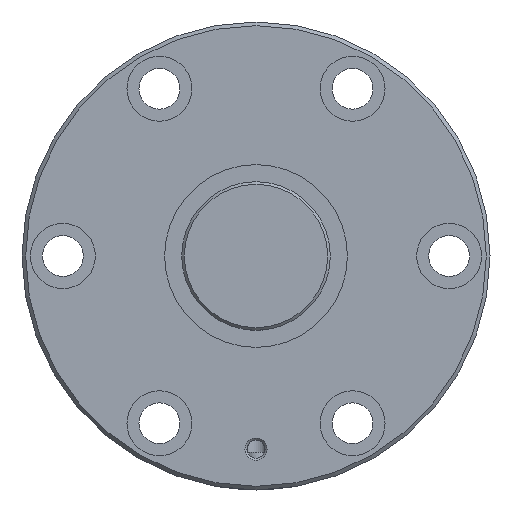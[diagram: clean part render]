
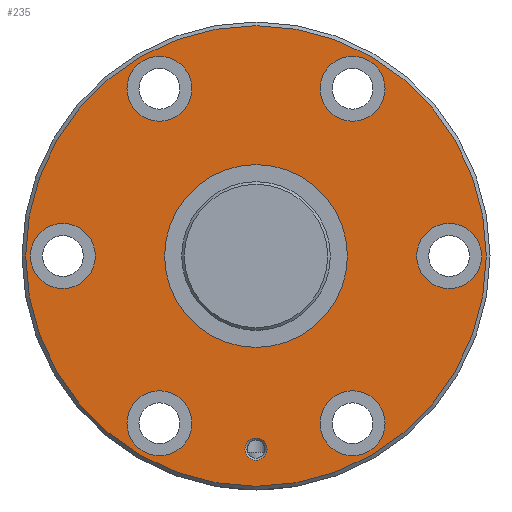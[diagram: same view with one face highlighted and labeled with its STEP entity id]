
A CAD part, left-side view. The second image highlights one B-rep face of the part: STEP entity #235.
In plain terms, the highlighted planar face has unit normal (-1, 0, 0).
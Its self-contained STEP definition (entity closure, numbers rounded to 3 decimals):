
#235 = ADVANCED_FACE( '', ( #458, #459, #460, #461, #462, #463, #464, #465, #466 ), #467, .T. );
#458 = FACE_BOUND( '', #755, .T. );
#459 = FACE_BOUND( '', #756, .T. );
#460 = FACE_BOUND( '', #757, .T. );
#461 = FACE_BOUND( '', #758, .T. );
#462 = FACE_BOUND( '', #759, .T. );
#463 = FACE_BOUND( '', #760, .T. );
#464 = FACE_BOUND( '', #761, .T. );
#465 = FACE_BOUND( '', #762, .T. );
#466 = FACE_OUTER_BOUND( '', #763, .T. );
#467 = PLANE( '', #764 );
#755 = EDGE_LOOP( '', ( #1304 ) );
#756 = EDGE_LOOP( '', ( #1305 ) );
#757 = EDGE_LOOP( '', ( #1306 ) );
#758 = EDGE_LOOP( '', ( #1307 ) );
#759 = EDGE_LOOP( '', ( #1308 ) );
#760 = EDGE_LOOP( '', ( #1309 ) );
#761 = EDGE_LOOP( '', ( #1310 ) );
#762 = EDGE_LOOP( '', ( #1311 ) );
#763 = EDGE_LOOP( '', ( #1312 ) );
#764 = AXIS2_PLACEMENT_3D( '', #1313, #1314, #1315 );
#1304 = ORIENTED_EDGE( '', *, *, #1628, .T. );
#1305 = ORIENTED_EDGE( '', *, *, #1629, .T. );
#1306 = ORIENTED_EDGE( '', *, *, #1516, .T. );
#1307 = ORIENTED_EDGE( '', *, *, #1630, .T. );
#1308 = ORIENTED_EDGE( '', *, *, #1631, .T. );
#1309 = ORIENTED_EDGE( '', *, *, #1632, .T. );
#1310 = ORIENTED_EDGE( '', *, *, #1633, .T. );
#1311 = ORIENTED_EDGE( '', *, *, #1634, .T. );
#1312 = ORIENTED_EDGE( '', *, *, #1635, .F. );
#1313 = CARTESIAN_POINT( '', ( 0., 62., 0. ) );
#1314 = DIRECTION( '', ( -1., 0., 0. ) );
#1315 = DIRECTION( '', ( 0., 0., 1. ) );
#1516 = EDGE_CURVE( '', #1709, #1709, #1710, .T. );
#1628 = EDGE_CURVE( '', #1893, #1893, #1894, .T. );
#1629 = EDGE_CURVE( '', #1895, #1895, #1896, .F. );
#1630 = EDGE_CURVE( '', #1897, #1897, #1898, .T. );
#1631 = EDGE_CURVE( '', #1899, #1899, #1900, .T. );
#1632 = EDGE_CURVE( '', #1901, #1901, #1902, .T. );
#1633 = EDGE_CURVE( '', #1903, #1903, #1904, .T. );
#1634 = EDGE_CURVE( '', #1905, #1905, #1906, .T. );
#1635 = EDGE_CURVE( '', #1907, #1907, #1908, .T. );
#1709 = VERTEX_POINT( '', #2127 );
#1710 = CIRCLE( '', #2128, 3. );
#1893 = VERTEX_POINT( '', #2920 );
#1894 = CIRCLE( '', #2921, 24.6 );
#1895 = VERTEX_POINT( '', #2922 );
#1896 = CIRCLE( '', #2923, 8.75 );
#1897 = VERTEX_POINT( '', #2924 );
#1898 = CIRCLE( '', #2925, 8.75 );
#1899 = VERTEX_POINT( '', #2926 );
#1900 = CIRCLE( '', #2927, 8.75 );
#1901 = VERTEX_POINT( '', #2928 );
#1902 = CIRCLE( '', #2929, 8.75 );
#1903 = VERTEX_POINT( '', #2930 );
#1904 = CIRCLE( '', #2931, 8.75 );
#1905 = VERTEX_POINT( '', #2932 );
#1906 = CIRCLE( '', #2933, 8.75 );
#1907 = VERTEX_POINT( '', #2934 );
#1908 = CIRCLE( '', #2935, 62. );
#2127 = CARTESIAN_POINT( '', ( 0., 0., -55. ) );
#2128 = AXIS2_PLACEMENT_3D( '', #3039, #3040, #3041 );
#2920 = CARTESIAN_POINT( '', ( 0., 0., -24.6 ) );
#2921 = AXIS2_PLACEMENT_3D( '', #3247, #3248, #3249 );
#2922 = CARTESIAN_POINT( '', ( 0., 52., 8.75 ) );
#2923 = AXIS2_PLACEMENT_3D( '', #3250, #3251, #3252 );
#2924 = CARTESIAN_POINT( '', ( 0., 26., 36.283 ) );
#2925 = AXIS2_PLACEMENT_3D( '', #3253, #3254, #3255 );
#2926 = CARTESIAN_POINT( '', ( 0., -26., -53.783 ) );
#2927 = AXIS2_PLACEMENT_3D( '', #3256, #3257, #3258 );
#2928 = CARTESIAN_POINT( '', ( 0., -26., 36.283 ) );
#2929 = AXIS2_PLACEMENT_3D( '', #3259, #3260, #3261 );
#2930 = CARTESIAN_POINT( '', ( 0., 26., -53.783 ) );
#2931 = AXIS2_PLACEMENT_3D( '', #3262, #3263, #3264 );
#2932 = CARTESIAN_POINT( '', ( 0., -52., -8.75 ) );
#2933 = AXIS2_PLACEMENT_3D( '', #3265, #3266, #3267 );
#2934 = CARTESIAN_POINT( '', ( 0., 0., -62. ) );
#2935 = AXIS2_PLACEMENT_3D( '', #3268, #3269, #3270 );
#3039 = CARTESIAN_POINT( '', ( 0., 0., -52. ) );
#3040 = DIRECTION( '', ( 1., 0., 0. ) );
#3041 = DIRECTION( '', ( 0., 0., -1. ) );
#3247 = CARTESIAN_POINT( '', ( 0., 0., 0. ) );
#3248 = DIRECTION( '', ( 1., 0., 0. ) );
#3249 = DIRECTION( '', ( 0., 0., -1. ) );
#3250 = CARTESIAN_POINT( '', ( 0., 52., 0. ) );
#3251 = DIRECTION( '', ( -1., 0., 0. ) );
#3252 = DIRECTION( '', ( 0., 0., 1. ) );
#3253 = CARTESIAN_POINT( '', ( 0., 26., 45.033 ) );
#3254 = DIRECTION( '', ( 1., 0., 0. ) );
#3255 = DIRECTION( '', ( 0., 0., -1. ) );
#3256 = CARTESIAN_POINT( '', ( 0., -26., -45.033 ) );
#3257 = DIRECTION( '', ( 1., 0., 0. ) );
#3258 = DIRECTION( '', ( 0., 0., -1. ) );
#3259 = CARTESIAN_POINT( '', ( 0., -26., 45.033 ) );
#3260 = DIRECTION( '', ( 1., 0., 0. ) );
#3261 = DIRECTION( '', ( 0., 0., -1. ) );
#3262 = CARTESIAN_POINT( '', ( 0., 26., -45.033 ) );
#3263 = DIRECTION( '', ( 1., 0., 0. ) );
#3264 = DIRECTION( '', ( 0., 0., -1. ) );
#3265 = CARTESIAN_POINT( '', ( 0., -52., 0. ) );
#3266 = DIRECTION( '', ( 1., 0., 0. ) );
#3267 = DIRECTION( '', ( 0., 0., -1. ) );
#3268 = CARTESIAN_POINT( '', ( 0., 0., 0. ) );
#3269 = DIRECTION( '', ( 1., 0., 0. ) );
#3270 = DIRECTION( '', ( 0., 0., -1. ) );
